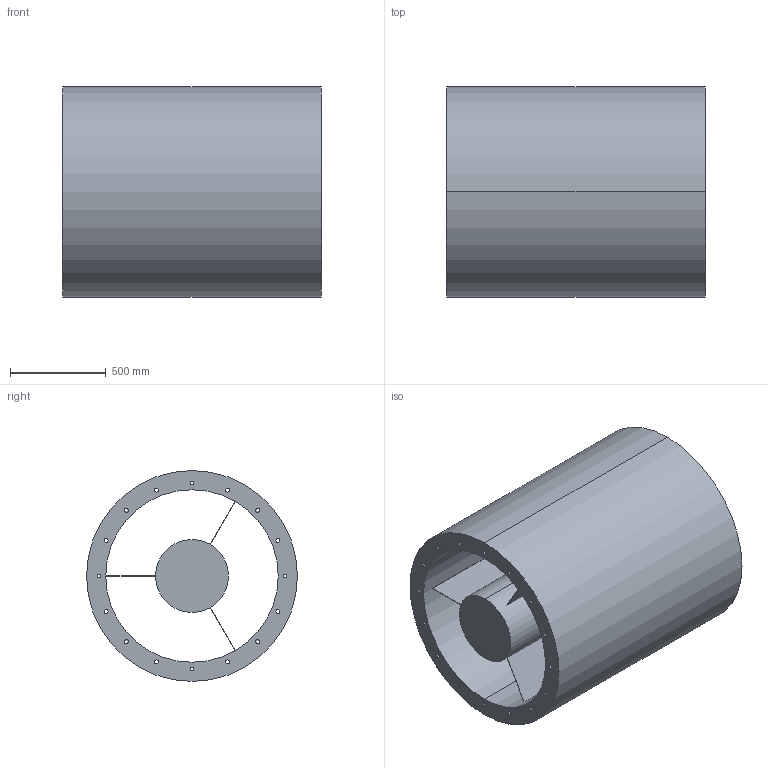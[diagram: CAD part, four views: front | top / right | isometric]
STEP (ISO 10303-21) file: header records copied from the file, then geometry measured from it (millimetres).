
FILE_DESCRIPTION(('STEP AP214'),'1');
FILE_NAME('accessory_5211815700.stp','2017-10-09T11:36:49',('TraceParts'),('TraceParts S.A.'),'Spatial InterOp 3D',' ',' ');
FILE_SCHEMA(('automotive_design'));
Length unit declared in the file: millimetre
Products named in the file (1): accessory_5211815700
Bounding box: 1350 x 1100 x 1100 mm (x, y, z)
Volume: 556998115.9 mm3; surface area: 13689956.7 mm2
Topology: 1 solids, 1 shells, 56 faces, 155 edges, 103 vertices
Faces by surface type: cylinder 38, plane 16, torus 2
Entity records: 2384 total; most frequent: DIRECTION 362, CARTESIAN_POINT 315, ORIENTED_EDGE 310, EDGE_CURVE 155, AXIS2_PLACEMENT_3D 150, VERTEX_POINT 103, EDGE_LOOP 96, CIRCLE 93
